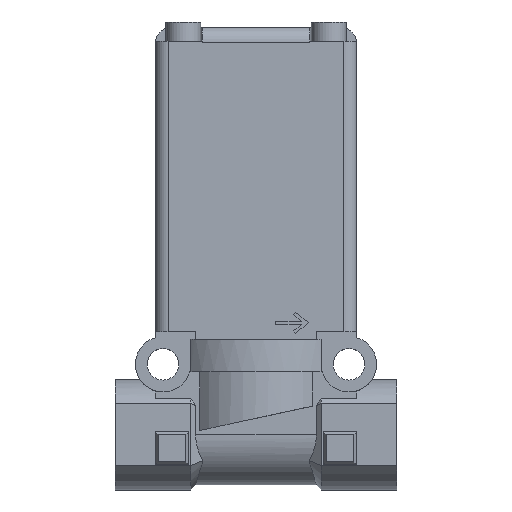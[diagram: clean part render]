
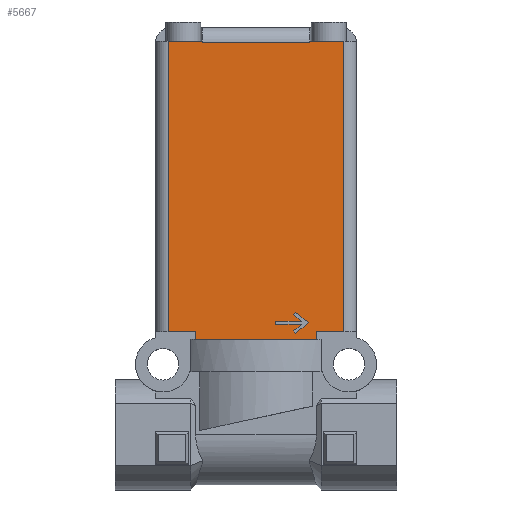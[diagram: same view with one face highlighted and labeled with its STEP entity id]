
A CAD part, top view. The second image highlights one B-rep face of the part: STEP entity #5667.
In plain terms, the highlighted planar face has unit normal (0, 0, 1).
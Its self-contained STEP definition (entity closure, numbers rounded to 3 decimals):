
#486=ORIENTED_EDGE('',*,*,#1645,.F.);
#487=ORIENTED_EDGE('',*,*,#1646,.F.);
#488=ORIENTED_EDGE('',*,*,#1647,.F.);
#489=ORIENTED_EDGE('',*,*,#1648,.F.);
#490=ORIENTED_EDGE('',*,*,#1649,.F.);
#491=ORIENTED_EDGE('',*,*,#1650,.F.);
#492=ORIENTED_EDGE('',*,*,#1651,.F.);
#493=ORIENTED_EDGE('',*,*,#1652,.F.);
#494=ORIENTED_EDGE('',*,*,#1653,.F.);
#495=ORIENTED_EDGE('',*,*,#1654,.T.);
#496=ORIENTED_EDGE('',*,*,#1655,.T.);
#497=ORIENTED_EDGE('',*,*,#1656,.T.);
#498=ORIENTED_EDGE('',*,*,#1657,.T.);
#499=ORIENTED_EDGE('',*,*,#1658,.F.);
#500=ORIENTED_EDGE('',*,*,#1659,.T.);
#501=ORIENTED_EDGE('',*,*,#1660,.F.);
#502=ORIENTED_EDGE('',*,*,#1661,.F.);
#503=ORIENTED_EDGE('',*,*,#1662,.F.);
#504=ORIENTED_EDGE('',*,*,#1663,.T.);
#505=ORIENTED_EDGE('',*,*,#1664,.F.);
#506=ORIENTED_EDGE('',*,*,#1665,.F.);
#1645=EDGE_CURVE('',#2211,#2212,#2565,.T.);
#1646=EDGE_CURVE('',#2213,#2211,#2566,.T.);
#1647=EDGE_CURVE('',#2214,#2213,#2567,.T.);
#1648=EDGE_CURVE('',#2215,#2214,#2568,.T.);
#1649=EDGE_CURVE('',#2216,#2215,#2569,.T.);
#1650=EDGE_CURVE('',#2217,#2216,#2570,.T.);
#1651=EDGE_CURVE('',#2218,#2217,#2571,.T.);
#1652=EDGE_CURVE('',#2219,#2218,#2572,.T.);
#1653=EDGE_CURVE('',#2212,#2219,#2573,.T.);
#1654=EDGE_CURVE('',#2220,#2221,#2574,.T.);
#1655=EDGE_CURVE('',#2221,#2222,#2575,.T.);
#1656=EDGE_CURVE('',#2222,#2223,#2576,.T.);
#1657=EDGE_CURVE('',#2223,#2224,#2577,.T.);
#1658=EDGE_CURVE('',#2225,#2224,#2578,.T.);
#1659=EDGE_CURVE('',#2225,#2226,#2579,.T.);
#1660=EDGE_CURVE('',#2227,#2226,#2580,.T.);
#1661=EDGE_CURVE('',#2228,#2227,#2581,.T.);
#1662=EDGE_CURVE('',#2229,#2228,#2582,.T.);
#1663=EDGE_CURVE('',#2229,#2230,#2583,.T.);
#1664=EDGE_CURVE('',#2231,#2230,#2584,.T.);
#1665=EDGE_CURVE('',#2220,#2231,#2585,.T.);
#2211=VERTEX_POINT('',#7887);
#2212=VERTEX_POINT('',#7888);
#2213=VERTEX_POINT('',#7890);
#2214=VERTEX_POINT('',#7892);
#2215=VERTEX_POINT('',#7894);
#2216=VERTEX_POINT('',#7896);
#2217=VERTEX_POINT('',#7898);
#2218=VERTEX_POINT('',#7900);
#2219=VERTEX_POINT('',#7902);
#2220=VERTEX_POINT('',#7905);
#2221=VERTEX_POINT('',#7906);
#2222=VERTEX_POINT('',#7908);
#2223=VERTEX_POINT('',#7910);
#2224=VERTEX_POINT('',#7912);
#2225=VERTEX_POINT('',#7914);
#2226=VERTEX_POINT('',#7916);
#2227=VERTEX_POINT('',#7918);
#2228=VERTEX_POINT('',#7920);
#2229=VERTEX_POINT('',#7922);
#2230=VERTEX_POINT('',#7924);
#2231=VERTEX_POINT('',#7926);
#2565=LINE('',#7886,#2941);
#2566=LINE('',#7889,#2942);
#2567=LINE('',#7891,#2943);
#2568=LINE('',#7893,#2944);
#2569=LINE('',#7895,#2945);
#2570=LINE('',#7897,#2946);
#2571=LINE('',#7899,#2947);
#2572=LINE('',#7901,#2948);
#2573=LINE('',#7903,#2949);
#2574=LINE('',#7904,#2950);
#2575=LINE('',#7907,#2951);
#2576=LINE('',#7909,#2952);
#2577=LINE('',#7911,#2953);
#2578=LINE('',#7913,#2954);
#2579=LINE('',#7915,#2955);
#2580=LINE('',#7917,#2956);
#2581=LINE('',#7919,#2957);
#2582=LINE('',#7921,#2958);
#2583=LINE('',#7923,#2959);
#2584=LINE('',#7925,#2960);
#2585=LINE('',#7927,#2961);
#2941=VECTOR('',#6508,1000.);
#2942=VECTOR('',#6509,1000.);
#2943=VECTOR('',#6510,1000.);
#2944=VECTOR('',#6511,1000.);
#2945=VECTOR('',#6512,1000.);
#2946=VECTOR('',#6513,1000.);
#2947=VECTOR('',#6514,1000.);
#2948=VECTOR('',#6515,1000.);
#2949=VECTOR('',#6516,1000.);
#2950=VECTOR('',#6517,1000.);
#2951=VECTOR('',#6518,1000.);
#2952=VECTOR('',#6519,1000.);
#2953=VECTOR('',#6520,1000.);
#2954=VECTOR('',#6521,1000.);
#2955=VECTOR('',#6522,1000.);
#2956=VECTOR('',#6523,1000.);
#2957=VECTOR('',#6524,1000.);
#2958=VECTOR('',#6525,1000.);
#2959=VECTOR('',#6526,1000.);
#2960=VECTOR('',#6527,1000.);
#2961=VECTOR('',#6528,1000.);
#3258=EDGE_LOOP('',(#486,#487,#488,#489,#490,#491,#492,#493,#494));
#3259=EDGE_LOOP('',(#495,#496,#497,#498,#499,#500,#501,#502,#503,#504,#505,
#506));
#3542=FACE_BOUND('',#3258,.T.);
#3543=FACE_BOUND('',#3259,.T.);
#3808=PLANE('',#5945);
#5667=ADVANCED_FACE('',(#3542,#3543),#3808,.T.);
#5945=AXIS2_PLACEMENT_3D('',#7885,#6506,#6507);
#6506=DIRECTION('',(0.,0.,1.));
#6507=DIRECTION('',(1.,0.,0.));
#6508=DIRECTION('',(-1.,0.,0.));
#6509=DIRECTION('',(0.766,-0.643,0.));
#6510=DIRECTION('',(-0.643,-0.766,0.));
#6511=DIRECTION('',(-0.766,0.643,0.));
#6512=DIRECTION('',(0.766,0.643,0.));
#6513=DIRECTION('',(0.643,-0.766,0.));
#6514=DIRECTION('',(-0.766,-0.643,0.));
#6515=DIRECTION('',(1.,0.,0.));
#6516=DIRECTION('',(0.,-1.,0.));
#6517=DIRECTION('',(0.,1.,0.));
#6518=DIRECTION('',(-1.,0.,0.));
#6519=DIRECTION('',(0.,-1.,0.));
#6520=DIRECTION('',(-1.,0.,0.));
#6521=DIRECTION('',(0.,-1.,0.));
#6522=DIRECTION('',(-1.,0.,0.));
#6523=DIRECTION('',(0.,1.,0.));
#6524=DIRECTION('',(-1.,0.,0.));
#6525=DIRECTION('',(0.,1.,0.));
#6526=DIRECTION('',(1.,0.,0.));
#6527=DIRECTION('',(0.,-1.,0.));
#6528=DIRECTION('',(-1.,0.,0.));
#7885=CARTESIAN_POINT('',(-20.,-6.,20.));
#7886=CARTESIAN_POINT('',(9.044,-2.435,20.));
#7887=CARTESIAN_POINT('',(9.044,-2.435,20.));
#7888=CARTESIAN_POINT('',(3.89,-2.435,20.));
#7889=CARTESIAN_POINT('',(7.489,-1.13,20.));
#7890=CARTESIAN_POINT('',(7.489,-1.13,20.));
#7891=CARTESIAN_POINT('',(7.894,-0.648,20.));
#7892=CARTESIAN_POINT('',(7.894,-0.648,20.));
#7893=CARTESIAN_POINT('',(10.4,-2.75,20.));
#7894=CARTESIAN_POINT('',(10.4,-2.75,20.));
#7895=CARTESIAN_POINT('',(7.894,-4.852,20.));
#7896=CARTESIAN_POINT('',(7.894,-4.852,20.));
#7897=CARTESIAN_POINT('',(7.489,-4.37,20.));
#7898=CARTESIAN_POINT('',(7.489,-4.37,20.));
#7899=CARTESIAN_POINT('',(9.044,-3.065,20.));
#7900=CARTESIAN_POINT('',(9.044,-3.065,20.));
#7901=CARTESIAN_POINT('',(3.89,-3.065,20.));
#7902=CARTESIAN_POINT('',(3.89,-3.065,20.));
#7903=CARTESIAN_POINT('',(3.89,-2.435,20.));
#7904=CARTESIAN_POINT('',(17.5,-6.,20.));
#7905=CARTESIAN_POINT('',(17.5,-4.5,20.));
#7906=CARTESIAN_POINT('',(17.5,53.3,20.));
#7907=CARTESIAN_POINT('',(-20.,53.3,20.));
#7908=CARTESIAN_POINT('',(10.7,53.3,20.));
#7909=CARTESIAN_POINT('',(10.7,58.,20.));
#7910=CARTESIAN_POINT('',(10.7,53.,20.));
#7911=CARTESIAN_POINT('',(10.7,53.,20.));
#7912=CARTESIAN_POINT('',(-10.7,53.,20.));
#7913=CARTESIAN_POINT('',(-10.7,58.,20.));
#7914=CARTESIAN_POINT('',(-10.7,53.3,20.));
#7915=CARTESIAN_POINT('',(-20.,53.3,20.));
#7916=CARTESIAN_POINT('',(-17.5,53.3,20.));
#7917=CARTESIAN_POINT('',(-17.5,-6.,20.));
#7918=CARTESIAN_POINT('',(-17.5,-4.5,20.));
#7919=CARTESIAN_POINT('',(-20.,-4.5,20.));
#7920=CARTESIAN_POINT('',(-12.,-4.5,20.));
#7921=CARTESIAN_POINT('',(-12.,-6.,20.));
#7922=CARTESIAN_POINT('',(-12.,-6.,20.));
#7923=CARTESIAN_POINT('',(-20.,-6.,20.));
#7924=CARTESIAN_POINT('',(12.,-6.,20.));
#7925=CARTESIAN_POINT('',(12.,-6.,20.));
#7926=CARTESIAN_POINT('',(12.,-4.5,20.));
#7927=CARTESIAN_POINT('',(-20.,-4.5,20.));
